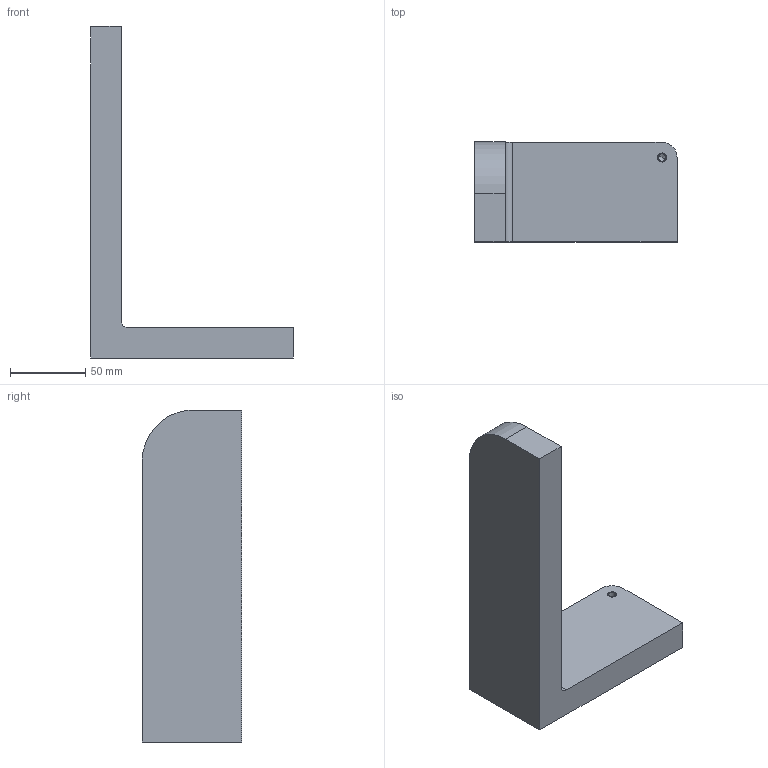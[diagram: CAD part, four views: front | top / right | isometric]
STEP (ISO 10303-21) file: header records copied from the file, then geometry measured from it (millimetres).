
FILE_DESCRIPTION(('CATIA V5 STEP Exchange'),'2;1');
FILE_NAME('C:\_Andres\UNIVERSIDAD\IQS\ASIGNATURAS\DAO\EXF\EXF-16172c\2inicio\Sastre_Cabrerizo_Ej01_v34.stp','2017-03-05T15:11:12+00:00',('none'),('none'),'CATIA Version 5-6 Release 2014 SP1 HF18','CATIA V5 STEP AP203','none');
FILE_SCHEMA(('CONFIG_CONTROL_DESIGN'));
Length unit declared in the file: millimetre
Products named in the file (1): Sastre_Cabrerizo_Ej01_v34
Bounding box: 134 x 66 x 220 mm (x, y, z)
Volume: 435530.5 mm3; surface area: 59516.6 mm2
Topology: 1 solids, 2 shells, 17 faces, 43 edges, 27 vertices
Faces by surface type: plane 8, cylinder 7, cone 2
Entity records: 513 total; most frequent: CARTESIAN_POINT 83, ORIENTED_EDGE 78, DIRECTION 69, EDGE_CURVE 41, AXIS2_PLACEMENT_3D 29, VECTOR 27, LINE 27, VERTEX_POINT 27
